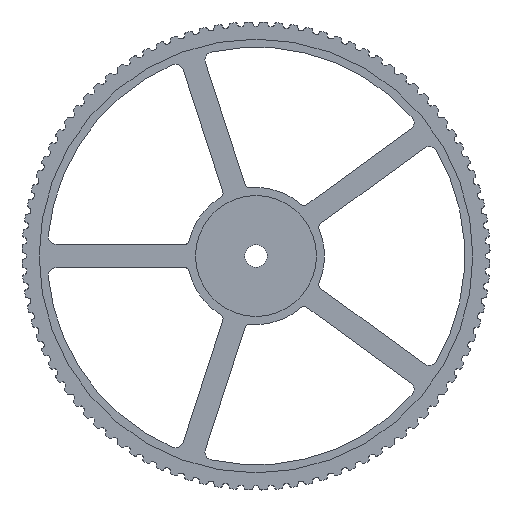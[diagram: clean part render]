
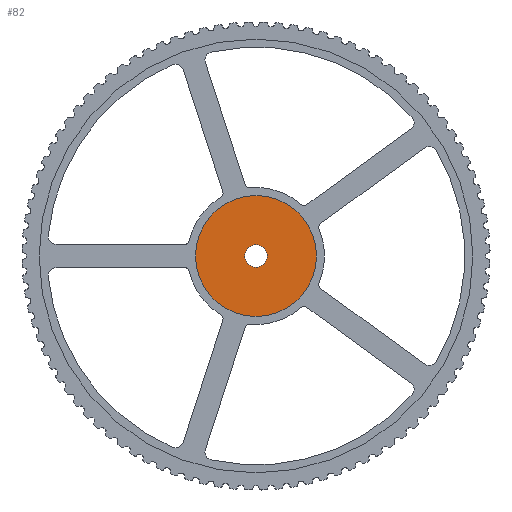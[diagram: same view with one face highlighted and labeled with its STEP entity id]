
A CAD part, left-side view. The second image highlights one B-rep face of the part: STEP entity #82.
In plain terms, the highlighted planar face has unit normal (-1, 0, 0).
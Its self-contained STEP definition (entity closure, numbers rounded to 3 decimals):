
#82 = ADVANCED_FACE( '', ( #923, #924 ), #925, .F. );
#923 = FACE_OUTER_BOUND( '', #2582, .T. );
#924 = FACE_BOUND( '', #2583, .T. );
#925 = PLANE( '', #2584 );
#2582 = EDGE_LOOP( '', ( #4334 ) );
#2583 = EDGE_LOOP( '', ( #4335 ) );
#2584 = AXIS2_PLACEMENT_3D( '', #4336, #4337, #4338 );
#4334 = ORIENTED_EDGE( '', *, *, #11626, .F. );
#4335 = ORIENTED_EDGE( '', *, *, #11628, .T. );
#4336 = CARTESIAN_POINT( '', ( 0., 0., 0. ) );
#4337 = DIRECTION( '', ( 1., 0., 0. ) );
#4338 = DIRECTION( '', ( 0., 0., -1. ) );
#11626 = EDGE_CURVE( '', #14144, #14144, #14145, .T. );
#11628 = EDGE_CURVE( '', #14148, #14148, #14149, .T. );
#14144 = VERTEX_POINT( '', #18228 );
#14145 = CIRCLE( '', #18229, 37.5 );
#14148 = VERTEX_POINT( '', #18232 );
#14149 = CIRCLE( '', #18233, 7. );
#18228 = CARTESIAN_POINT( '', ( 0., 0., -37.5 ) );
#18229 = AXIS2_PLACEMENT_3D( '', #23712, #23713, #23714 );
#18232 = CARTESIAN_POINT( '', ( 0., 0., -7. ) );
#18233 = AXIS2_PLACEMENT_3D( '', #23718, #23719, #23720 );
#23712 = CARTESIAN_POINT( '', ( 0., 0., 0. ) );
#23713 = DIRECTION( '', ( 1., 0., 0. ) );
#23714 = DIRECTION( '', ( 0., 0., -1. ) );
#23718 = CARTESIAN_POINT( '', ( 0., 0., 0. ) );
#23719 = DIRECTION( '', ( 1., 0., 0. ) );
#23720 = DIRECTION( '', ( 0., 0., -1. ) );
